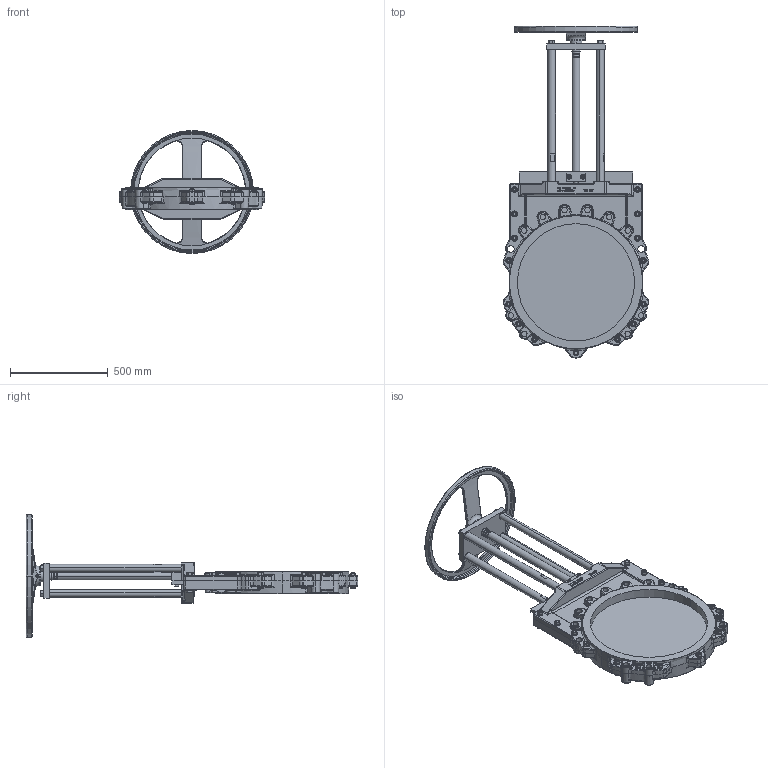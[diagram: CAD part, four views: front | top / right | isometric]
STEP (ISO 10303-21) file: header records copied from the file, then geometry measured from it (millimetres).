
FILE_DESCRIPTION (( 'STEP AP214' ), '1' );
FILE_NAME ('VSA DN 0600.STEP', '2015-09-23T10:59:50', ( 'admin' ), ( 'Hewlett-Packard Company' ), 'SwSTEP 2.0', 'SolidWorks 2013', '' );
FILE_SCHEMA (( 'AUTOMOTIVE_DESIGN' ));
Length unit declared in the file: millimetre
Products named in the file (1): VSA DN 0600
Bounding box: 747.34 x 1699.97 x 630 mm (x, y, z)
Volume: 41458192.2 mm3; surface area: 3144847.6 mm2
Topology: 78 solids, 87 shells, 2919 faces, 6789 edges, 3964 vertices
Faces by surface type: plane 939, cylinder 796, cone 494, bspline 400, torus 290
Entity records: 138945 total; most frequent: CARTESIAN_POINT 42870, ORIENTED_EDGE 13248, DIRECTION 13017, EDGE_CURVE 6624, AXIS2_PLACEMENT_3D 5361, VERTEX_POINT 3964, EDGE_LOOP 3182, UNCERTAINTY_MEASURE_WITH_UNIT 2997
